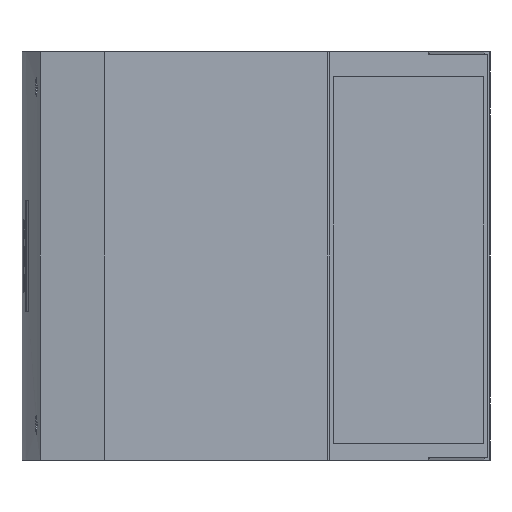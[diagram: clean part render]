
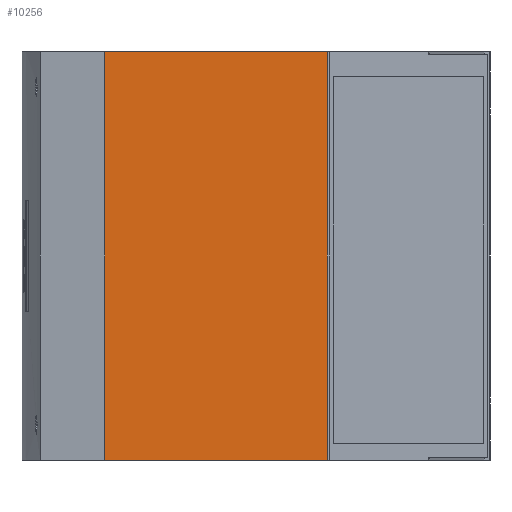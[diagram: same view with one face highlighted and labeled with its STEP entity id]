
A CAD part, left-side view. The second image highlights one B-rep face of the part: STEP entity #10256.
In plain terms, the highlighted planar face has unit normal (-1, 0, 0).
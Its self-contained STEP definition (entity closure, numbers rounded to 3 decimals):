
#171 = ORIENTED_EDGE ( 'NONE', *, *, #4855, .F. ) ;
#177 = ORIENTED_EDGE ( 'NONE', *, *, #5519, .T. ) ;
#413 = FACE_OUTER_BOUND ( 'NONE', #7704, .T. ) ;
#667 = VERTEX_POINT ( 'NONE', #9829 ) ;
#724 = LINE ( 'NONE', #2958, #4369 ) ;
#768 = LINE ( 'NONE', #6378, #10596 ) ;
#1101 = LINE ( 'NONE', #7725, #5374 ) ;
#1110 = VERTEX_POINT ( 'NONE', #6844 ) ;
#1443 = DIRECTION ( 'NONE',  ( 0., -1., 0. ) ) ;
#1860 = VERTEX_POINT ( 'NONE', #6268 ) ;
#1933 = EDGE_CURVE ( 'NONE', #667, #1110, #768, .T. ) ;
#2167 = CARTESIAN_POINT ( 'NONE',  ( -220.717, 116.376, 235. ) ) ;
#2958 = CARTESIAN_POINT ( 'NONE',  ( -220.717, 116.376, 235. ) ) ;
#3707 = ORIENTED_EDGE ( 'NONE', *, *, #5614, .F. ) ;
#3881 = ORIENTED_EDGE ( 'NONE', *, *, #1933, .T. ) ;
#4369 = VECTOR ( 'NONE', #10404, 1000. ) ;
#4789 = DIRECTION ( 'NONE',  ( 1., 0., 0. ) ) ;
#4855 = EDGE_CURVE ( 'NONE', #7637, #1860, #724, .T. ) ;
#4859 = VECTOR ( 'NONE', #10565, 1000. ) ;
#5374 = VECTOR ( 'NONE', #8581, 1000. ) ;
#5519 = EDGE_CURVE ( 'NONE', #7637, #667, #1101, .T. ) ;
#5614 = EDGE_CURVE ( 'NONE', #1860, #1110, #9765, .T. ) ;
#6268 = CARTESIAN_POINT ( 'NONE',  ( -220.717, -11.675, 235. ) ) ;
#6378 = CARTESIAN_POINT ( 'NONE',  ( -220.717, 116.376, 0. ) ) ;
#6382 = PLANE ( 'NONE',  #8979 ) ;
#6844 = CARTESIAN_POINT ( 'NONE',  ( -220.717, -11.675, 0. ) ) ;
#7637 = VERTEX_POINT ( 'NONE', #2167 ) ;
#7704 = EDGE_LOOP ( 'NONE', ( #3881, #3707, #171, #177 ) ) ;
#7725 = CARTESIAN_POINT ( 'NONE',  ( -220.717, 116.376, 235. ) ) ;
#7967 = CARTESIAN_POINT ( 'NONE',  ( -220.717, 116.376, 235. ) ) ;
#8002 = DIRECTION ( 'NONE',  ( 0., 0., -1. ) ) ;
#8581 = DIRECTION ( 'NONE',  ( 0., 0., -1. ) ) ;
#8870 = CARTESIAN_POINT ( 'NONE',  ( -220.717, -11.675, 235. ) ) ;
#8979 = AXIS2_PLACEMENT_3D ( 'NONE', #7967, #4789, #8002 ) ;
#9765 = LINE ( 'NONE', #8870, #4859 ) ;
#9829 = CARTESIAN_POINT ( 'NONE',  ( -220.717, 116.376, 0. ) ) ;
#10256 = ADVANCED_FACE ( 'NONE', ( #413 ), #6382, .F. ) ;
#10404 = DIRECTION ( 'NONE',  ( 0., -1., 0. ) ) ;
#10565 = DIRECTION ( 'NONE',  ( 0., 0., -1. ) ) ;
#10596 = VECTOR ( 'NONE', #1443, 1000. ) ;
